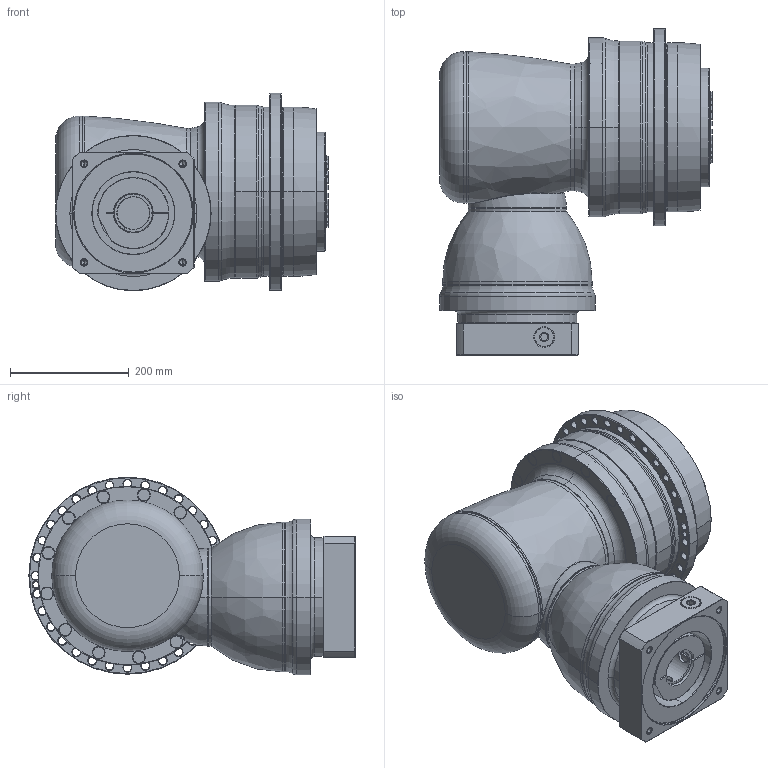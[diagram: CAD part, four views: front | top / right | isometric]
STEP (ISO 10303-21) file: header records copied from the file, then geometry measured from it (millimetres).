
FILE_DESCRIPTION((''),'2;1');
FILE_NAME('APCK285_2ST_55-P0409C00201_ASM','2018-05-10T',('d01226'),(''),'PRO/ENGINEER BY PARAMETRIC TECHNOLOGY CORPORATION, 2008410','PRO/ENGINEER BY PARAMETRIC TECHNOLOGY CORPORATION, 2008410','');
FILE_SCHEMA(('CONFIG_CONTROL_DESIGN'));
Length unit declared in the file: millimetre
Products named in the file (13): P1008700002; P1802810001; P0278801003; P03598G0103; P1211800001; P1315700001; P1007701001; P1318701401; P0409C00201; P0503C00016; P0912704001; 21711426021; APCK285_2ST_55-P0409C00201_ASM
Assembly tree (12 placements, depth 2):
  APCK285_2ST_55-P0409C00201_ASM
    P1008700002
    P1802810001
    P0278801003
    P03598G0103
    P1211800001
    P1315700001
    P1007701001
    P1318701401
    P0409C00201
    P0503C00016
    P0912704001
    21711426021
Bounding box: 459.6 x 549.5 x 333 mm (x, y, z)
Volume: 35416781.7 mm3; surface area: 1918289.6 mm2
Topology: 13 solids, 25 shells, 959 faces, 2275 edges, 1403 vertices
Faces by surface type: cone 304, cylinder 300, plane 185, torus 140, bspline 28, sphere 2
Entity records: 36282 total; most frequent: CARTESIAN_POINT 13408, DIRECTION 5160, ORIENTED_EDGE 4472, AXIS2_PLACEMENT_3D 2272, EDGE_CURVE 2261, VERTEX_POINT 1403, CIRCLE 1304, EDGE_LOOP 1118
